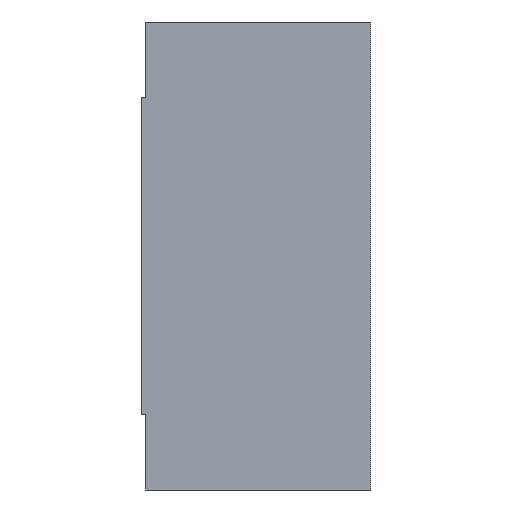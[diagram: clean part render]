
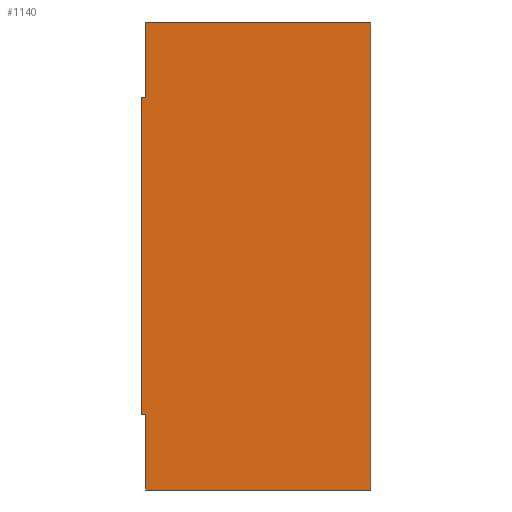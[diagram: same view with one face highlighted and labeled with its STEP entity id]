
A CAD part, left-side view. The second image highlights one B-rep face of the part: STEP entity #1140.
In plain terms, the highlighted planar face has unit normal (-1, 0, 0).
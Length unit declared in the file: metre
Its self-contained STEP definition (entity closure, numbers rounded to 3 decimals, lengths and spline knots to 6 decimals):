
#202=ORIENTED_EDGE('',*,*,#402,.T.);
#203=ORIENTED_EDGE('',*,*,#462,.F.);
#204=ORIENTED_EDGE('',*,*,#456,.T.);
#205=ORIENTED_EDGE('',*,*,#452,.T.);
#206=ORIENTED_EDGE('',*,*,#461,.F.);
#207=ORIENTED_EDGE('',*,*,#463,.T.);
#208=ORIENTED_EDGE('',*,*,#405,.F.);
#209=ORIENTED_EDGE('',*,*,#464,.F.);
#402=EDGE_CURVE('',#547,#549,#666,.T.);
#405=EDGE_CURVE('',#552,#553,#669,.T.);
#452=EDGE_CURVE('',#587,#588,#707,.T.);
#456=EDGE_CURVE('',#591,#587,#711,.T.);
#461=EDGE_CURVE('',#594,#588,#716,.T.);
#462=EDGE_CURVE('',#591,#549,#717,.T.);
#463=EDGE_CURVE('',#594,#553,#718,.T.);
#464=EDGE_CURVE('',#547,#552,#719,.T.);
#547=VERTEX_POINT('',#1679);
#549=VERTEX_POINT('',#1683);
#552=VERTEX_POINT('',#1690);
#553=VERTEX_POINT('',#1692);
#587=VERTEX_POINT('',#1791);
#588=VERTEX_POINT('',#1792);
#591=VERTEX_POINT('',#1800);
#594=VERTEX_POINT('',#1808);
#666=LINE('',#1684,#764);
#669=LINE('',#1691,#767);
#707=LINE('',#1790,#805);
#711=LINE('',#1799,#809);
#716=LINE('',#1809,#814);
#717=LINE('',#1811,#815);
#718=LINE('',#1812,#816);
#719=LINE('',#1813,#817);
#764=VECTOR('',#1336,1.);
#767=VECTOR('',#1341,1.);
#805=VECTOR('',#1433,1.);
#809=VECTOR('',#1439,1.);
#814=VECTOR('',#1446,1.);
#815=VECTOR('',#1449,1.);
#816=VECTOR('',#1450,1.);
#817=VECTOR('',#1451,1.);
#886=EDGE_LOOP('',(#202,#203,#204,#205,#206,#207,#208,#209));
#990=FACE_BOUND('',#886,.T.);
#1099=PLANE('',#1237);
#1140=ADVANCED_FACE('',(#990),#1099,.F.);
#1237=AXIS2_PLACEMENT_3D('',#1810,#1447,#1448);
#1336=DIRECTION('',(0.,-1.,0.));
#1341=DIRECTION('',(0.,-1.,0.));
#1433=DIRECTION('',(0.,0.,1.));
#1439=DIRECTION('',(0.,-1.,0.));
#1446=DIRECTION('',(0.,-1.,0.));
#1447=DIRECTION('',(1.,0.,0.));
#1448=DIRECTION('',(0.,0.,-1.));
#1449=DIRECTION('',(0.,0.,1.));
#1450=DIRECTION('',(0.,0.,-1.));
#1451=DIRECTION('',(0.,0.,1.));
#1679=CARTESIAN_POINT('',(0.,0.026,-0.0445));
#1683=CARTESIAN_POINT('',(0.,0.0255,-0.0445));
#1684=CARTESIAN_POINT('',(0.,0.026,-0.0445));
#1690=CARTESIAN_POINT('',(0.,0.026,-0.0085));
#1691=CARTESIAN_POINT('',(0.,0.026,-0.0085));
#1692=CARTESIAN_POINT('',(0.,0.0255,-0.0085));
#1790=CARTESIAN_POINT('',(0.,0.,0.));
#1791=CARTESIAN_POINT('',(0.,0.,-0.053));
#1792=CARTESIAN_POINT('',(0.,0.,0.));
#1799=CARTESIAN_POINT('',(0.,0.026,-0.053));
#1800=CARTESIAN_POINT('',(0.,0.0255,-0.053));
#1808=CARTESIAN_POINT('',(0.,0.0255,0.));
#1809=CARTESIAN_POINT('',(0.,0.026,0.));
#1810=CARTESIAN_POINT('',(0.,0.026,0.));
#1811=CARTESIAN_POINT('',(0.,0.0255,-0.053));
#1812=CARTESIAN_POINT('',(0.,0.0255,0.));
#1813=CARTESIAN_POINT('',(0.,0.026,0.));
